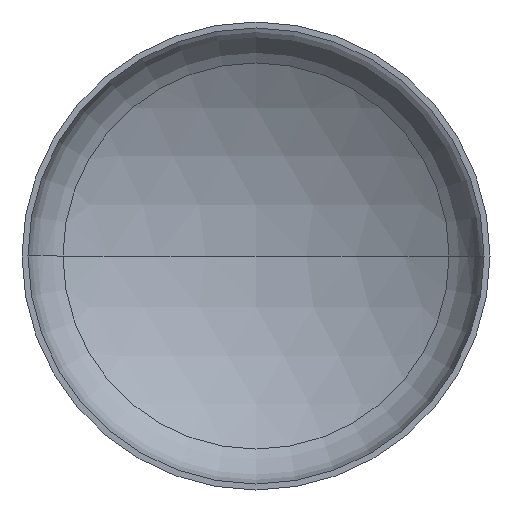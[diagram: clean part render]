
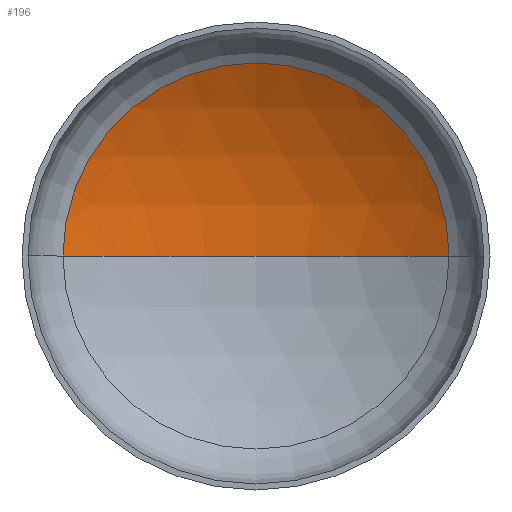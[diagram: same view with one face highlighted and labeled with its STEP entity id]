
A CAD part, front view. The second image highlights one B-rep face of the part: STEP entity #196.
In plain terms, the highlighted spherical face has radius 2880 mm.
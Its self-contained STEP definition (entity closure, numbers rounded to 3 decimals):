
#16 = AXIS2_PLACEMENT_3D ( 'NONE', #211, #223, #221 ) ;
#19 = AXIS2_PLACEMENT_3D ( 'NONE', #187, #186, #195 ) ;
#21 = VERTEX_POINT ( 'NONE', #197 ) ;
#32 = AXIS2_PLACEMENT_3D ( 'NONE', #231, #254, #326 ) ;
#36 = AXIS2_PLACEMENT_3D ( 'NONE', #363, #310, #215 ) ;
#56 = ORIENTED_EDGE ( 'NONE', *, *, #343, .T. ) ;
#74 = ORIENTED_EDGE ( 'NONE', *, *, #348, .T. ) ;
#124 = ORIENTED_EDGE ( 'NONE', *, *, #353, .F. ) ;
#125 = VERTEX_POINT ( 'NONE', #228 ) ;
#131 = EDGE_LOOP ( 'NONE', ( #124, #74, #56 ) ) ;
#170 = VERTEX_POINT ( 'NONE', #249 ) ;
#186 = DIRECTION ( 'NONE',  ( 0., -1., 0. ) ) ;
#187 = CARTESIAN_POINT ( 'NONE',  ( 0., 615.507, 0. ) ) ;
#194 = FACE_OUTER_BOUND ( 'NONE', #131, .T. ) ;
#195 = DIRECTION ( 'NONE',  ( 1., 0., 0. ) ) ;
#196 = ADVANCED_FACE ( 'NONE', ( #194 ), #201, .F. ) ;
#197 = CARTESIAN_POINT ( 'NONE',  ( -1485.213, 615.507, 0. ) ) ;
#201 = SPHERICAL_SURFACE ( 'NONE', #32, 2880. ) ;
#211 = CARTESIAN_POINT ( 'NONE',  ( 0., -1851.99, 0. ) ) ;
#215 = DIRECTION ( 'NONE',  ( -1., 0., 0. ) ) ;
#221 = DIRECTION ( 'NONE',  ( 1., 0., 0. ) ) ;
#223 = DIRECTION ( 'NONE',  ( 0., 0., 1. ) ) ;
#228 = CARTESIAN_POINT ( 'NONE',  ( 1485.213, 615.507, 0. ) ) ;
#229 = CIRCLE ( 'NONE', #19, 1485.213 ) ;
#231 = CARTESIAN_POINT ( 'NONE',  ( 0., -1851.99, 0. ) ) ;
#249 = CARTESIAN_POINT ( 'NONE',  ( 0., 1028.01, 0. ) ) ;
#254 = DIRECTION ( 'NONE',  ( 0., 0., -1. ) ) ;
#289 = CIRCLE ( 'NONE', #16, 2880. ) ;
#310 = DIRECTION ( 'NONE',  ( 0., 0., -1. ) ) ;
#326 = DIRECTION ( 'NONE',  ( -1., 0., 0. ) ) ;
#343 = EDGE_CURVE ( 'NONE', #125, #21, #229, .T. ) ;
#348 = EDGE_CURVE ( 'NONE', #170, #125, #362, .T. ) ;
#353 = EDGE_CURVE ( 'NONE', #170, #21, #289, .T. ) ;
#362 = CIRCLE ( 'NONE', #36, 2880. ) ;
#363 = CARTESIAN_POINT ( 'NONE',  ( 0., -1851.99, 0. ) ) ;
